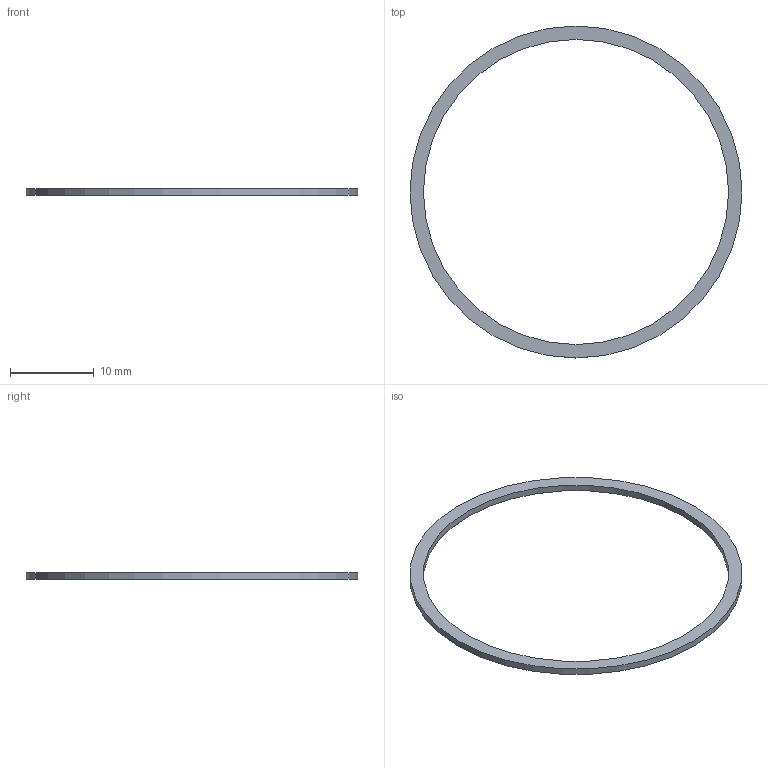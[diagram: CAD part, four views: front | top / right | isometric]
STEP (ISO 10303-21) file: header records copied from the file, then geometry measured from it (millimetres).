
FILE_DESCRIPTION(('Open CASCADE Model'),'2;1');
FILE_NAME('Open CASCADE Shape Model','2026-09-06T11:21:49',('Author'),( 'Open CASCADE'),'Open CASCADE STEP processor 7.7','Open CASCADE 7.7' ,'Unknown');
FILE_SCHEMA(('AUTOMOTIVE_DESIGN { 1 0 10303 214 1 1 1 1 }'));
Length unit declared in the file: millimetre
Products named in the file (1): Open CASCADE STEP translator 7.7 10
Bounding box: 39.6 x 39.6 x 0.8 mm (x, y, z)
Volume: 152.8 mm3; surface area: 573 mm2
Topology: 1 solids, 1 shells, 4 faces, 6 edges, 4 vertices
Faces by surface type: cylinder 2, plane 2
Full cylindrical faces by diameter (mm): 36.4 x1, 39.6 x1
Entity records: 192 total; most frequent: CARTESIAN_POINT 39, DIRECTION 30, ORIENTED_EDGE 12, PCURVE 12, DEFINITIONAL_REPRESENTATION 12, LINE 10, VECTOR 10, AXIS2_PLACEMENT_3D 9
